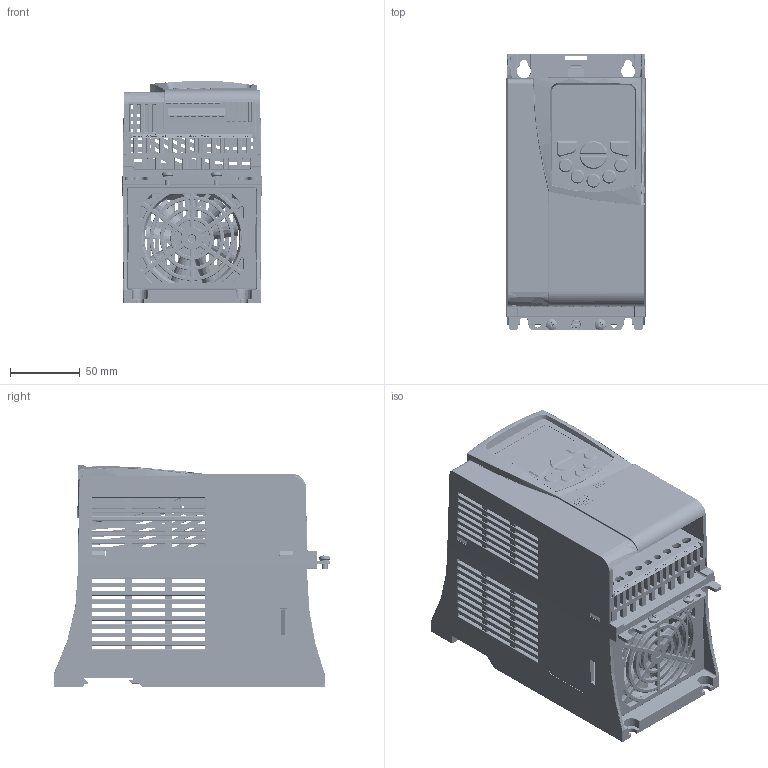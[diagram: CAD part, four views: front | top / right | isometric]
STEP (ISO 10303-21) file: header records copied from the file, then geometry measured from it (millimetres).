
FILE_DESCRIPTION (( 'STEP AP214' ), '1' );
FILE_NAME ('CFW500 Mec B IP20.step', '2015-05-22T10:37:22', ( 'Usuário do Windows' ), ( 'WEG Equipamentos Elétricos' ), 'SwSTEP 2.0', 'SolidWorks 2014', '' );
FILE_SCHEMA (( 'AUTOMOTIVE_DESIGN' ));
Length unit declared in the file: millimetre
Products named in the file (1): CFW500 Mec B IP20
Bounding box: 100.17 x 199.1 x 160.11 mm (x, y, z)
Volume: 409937 mm3; surface area: 373755.6 mm2
Topology: 39 solids, 39 shells, 11258 faces, 29641 edges, 18737 vertices
Faces by surface type: plane 6319, cylinder 1928, bspline 1259, cone 843, torus 754, sphere 155
Entity records: 515714 total; most frequent: CARTESIAN_POINT 120953, ORIENTED_EDGE 59192, DIRECTION 52000, EDGE_CURVE 29596, VECTOR 19686, LINE 19686, VERTEX_POINT 18735, AXIS2_PLACEMENT_3D 16157
